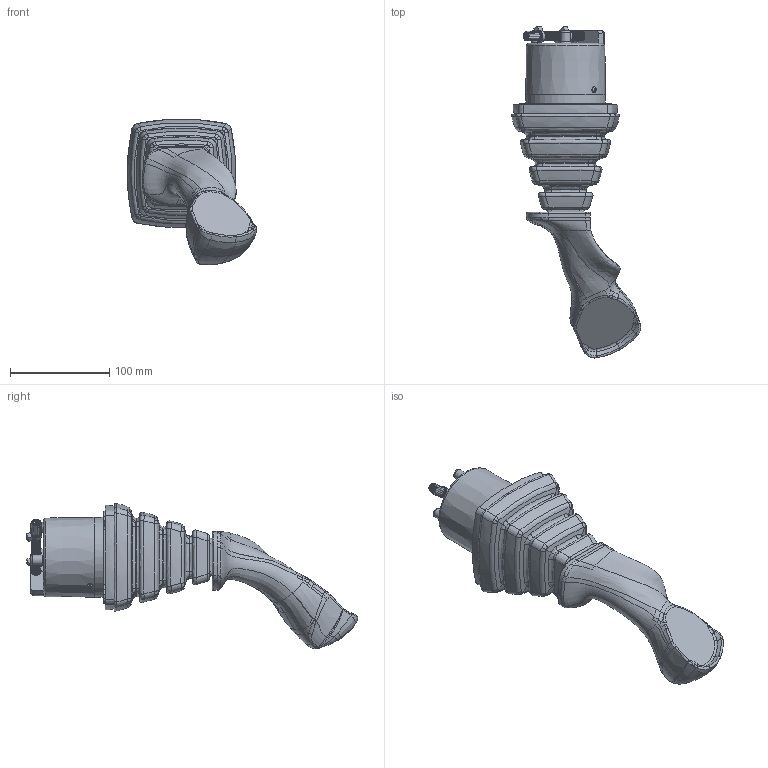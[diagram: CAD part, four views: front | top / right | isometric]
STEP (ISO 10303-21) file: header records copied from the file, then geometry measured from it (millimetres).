
FILE_DESCRIPTION(/* description */ (''),/* implementation_level */ '2;1');
FILE_NAME(/* name */ 'MOD18.step',/* time_stamp */ '2026-05-28T08:08:34-04:00',/* author */ (''),/* organization */ (''),/* preprocessor_version */ 'ST-DEVELOPER v20.1',/* originating_system */ 'Autodesk Translation Framework v15.8.0.0',/* authorisation */ '');
FILE_SCHEMA (('AUTOMOTIVE_DESIGN { 1 0 10303 214 3 1 1 }'));
Products named in the file (2): SENSE_PLUS_POS_ALL_RH; SENSE_PLUS_POS_00_RH
Assembly tree (1 placements, depth 2):
  SENSE_PLUS_POS_ALL_RH
    SENSE_PLUS_POS_00_RH
Bounding box: 129.91 x 333.69 x 146.59 mm (x, y, z)
Surface area: 125330 mm2 (no closed solid volume)
Topology: 0 solids, 33 shells, 727 faces, 2068 edges, 1365 vertices
Faces by surface type: bspline 394, plane 153, cylinder 109, cone 44, torus 19, sphere 8
Full cylindrical faces by diameter (mm): 1.7 x2, 1.8 x12, 4 x1, 5.5 x2, 6 x1, 8 x1, 10 x3
Entity records: 80377 total; most frequent: CARTESIAN_POINT 63809, ORIENTED_EDGE 3540, DIRECTION 2272, EDGE_CURVE 2068, VERTEX_POINT 1365, B_SPLINE_CURVE_WITH_KNOTS 945, AXIS2_PLACEMENT_3D 817, EDGE_LOOP 772
